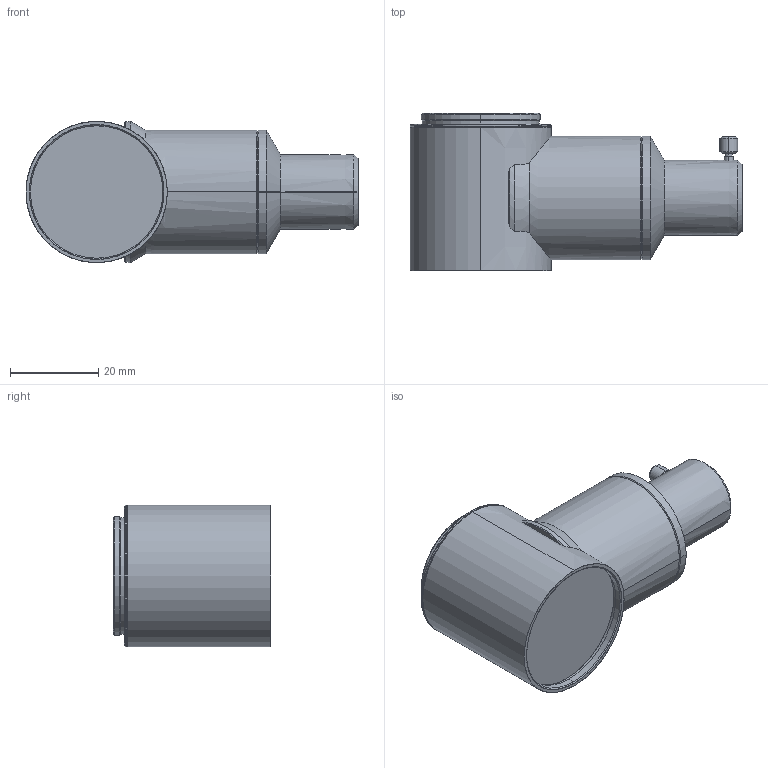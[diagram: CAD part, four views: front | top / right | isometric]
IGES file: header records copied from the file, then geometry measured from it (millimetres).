
Start section: SolidWorks IGES file using analytic representation for surfaces
Global section: file name: C:\Users\tsuji_vst\Documents\【作業フォルダ】\【3D】\00 VST\VS-HM\VS-HM270\VS-HM270.IGS; native system: SolidWorks 2018; preprocessor: SolidWorks 2018; author: tsuji_vst; date: 200409.153424; units: millimetre
Bounding box: 75.2 x 35.7 x 32 mm (x, y, z)
Surface area: 9488.7 mm2 (no closed solid volume)
Topology: 0 solids, 0 shells, 76 faces, 1118 edges, 1118 vertices
Faces by surface type: revolution 64, bspline 12
